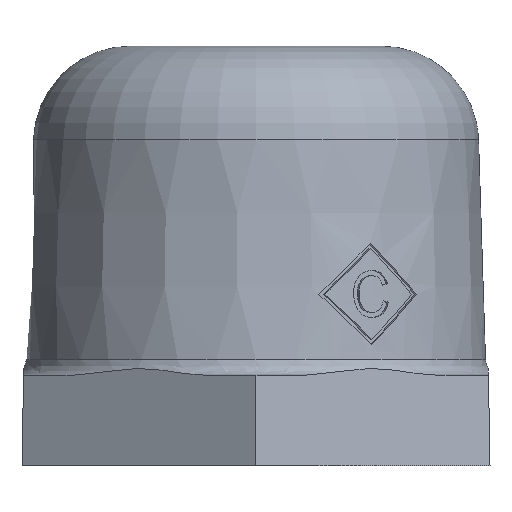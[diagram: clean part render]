
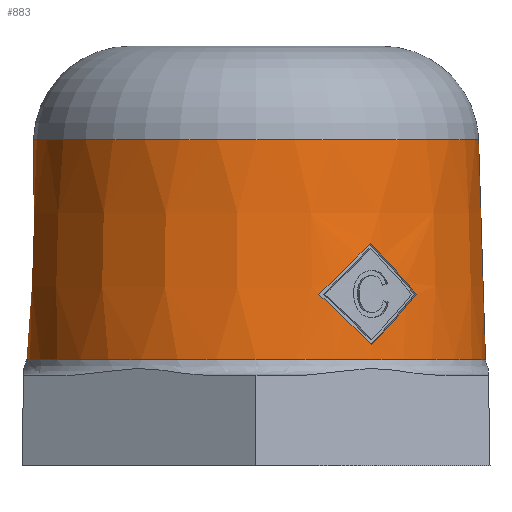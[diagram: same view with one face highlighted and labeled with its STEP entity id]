
A CAD part, front view. The second image highlights one B-rep face of the part: STEP entity #883.
In plain terms, the highlighted conical face has half-angle 1.8 degrees and reference radius 14.25 mm.
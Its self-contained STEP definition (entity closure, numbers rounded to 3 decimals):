
#212=CARTESIAN_POINT('',(7.176,-12.242,7.494));
#213=VERTEX_POINT('',#212);
#214=CARTESIAN_POINT('',(3.888,-13.545,10.634));
#215=VERTEX_POINT('',#214);
#216=CARTESIAN_POINT('',(0.344,0.208,6.968));
#217=DIRECTION('',(-0.573,-0.346,-0.743));
#218=DIRECTION('',(0.636,0.384,-0.669));
#219=AXIS2_PLACEMENT_3D('',#216,#217,#218);
#220=ELLIPSE('',#219,19.116,14.201);
#221=EDGE_CURVE('',#213,#215,#220,.T.);
#244=CARTESIAN_POINT('',(7.077,-12.071,13.789));
#245=VERTEX_POINT('',#244);
#246=CARTESIAN_POINT('',(-0.347,-0.192,13.103));
#247=DIRECTION('',(-0.586,-0.323,0.743));
#248=DIRECTION('',(0.651,0.359,0.669));
#249=AXIS2_PLACEMENT_3D('',#246,#247,#248);
#250=ELLIPSE('',#249,18.857,14.009);
#251=EDGE_CURVE('',#215,#245,#250,.T.);
#269=CARTESIAN_POINT('',(9.924,-10.004,10.633));
#270=VERTEX_POINT('',#269);
#271=CARTESIAN_POINT('',(-0.352,-0.194,6.8));
#272=DIRECTION('',(0.586,0.323,-0.743));
#273=DIRECTION('',(0.651,0.359,0.669));
#274=AXIS2_PLACEMENT_3D('',#271,#272,#273);
#275=ELLIPSE('',#274,19.124,14.207);
#276=EDGE_CURVE('',#270,#213,#275,.T.);
#294=CARTESIAN_POINT('',(0.339,0.205,13.272));
#295=DIRECTION('',(0.573,0.346,0.743));
#296=DIRECTION('',(0.636,0.384,-0.669));
#297=AXIS2_PLACEMENT_3D('',#294,#295,#296);
#298=ELLIPSE('',#297,18.85,14.003);
#299=EDGE_CURVE('',#245,#270,#298,.T.);
#850=CARTESIAN_POINT('',(0.,0.0,5.6));
#851=DIRECTION('',(0.0,0.0,-1.0));
#852=DIRECTION('',(-1.0,0.0,0.0));
#853=AXIS2_PLACEMENT_3D('',#850,#851,#852);
#854=CONICAL_SURFACE('',#853,14.25,1.8);
#855=CARTESIAN_POINT('',(14.22,0.,6.569));
#856=VERTEX_POINT('',#855);
#857=CARTESIAN_POINT('',(0.,0.,6.569));
#858=DIRECTION('',(0.0,0.0,-1.0));
#859=DIRECTION('',(-1.0,0.0,0.0));
#860=AXIS2_PLACEMENT_3D('',#857,#858,#859);
#861=CIRCLE('',#860,14.22);
#862=EDGE_CURVE('',#856,#856,#861,.T.);
#863=ORIENTED_EDGE('',*,*,#862,.F.);
#864=EDGE_LOOP('',(#863));
#865=FACE_OUTER_BOUND('',#864,.T.);
#866=CARTESIAN_POINT('',(13.792,0.,20.188));
#867=VERTEX_POINT('',#866);
#868=CARTESIAN_POINT('',(0.,0.,20.188));
#869=DIRECTION('',(0.0,0.0,1.0));
#870=DIRECTION('',(-1.0,0.0,0.0));
#871=AXIS2_PLACEMENT_3D('',#868,#869,#870);
#872=CIRCLE('',#871,13.792);
#873=EDGE_CURVE('',#867,#867,#872,.T.);
#874=ORIENTED_EDGE('',*,*,#873,.F.);
#875=EDGE_LOOP('',(#874));
#876=FACE_BOUND('',#875,.T.);
#877=ORIENTED_EDGE('',*,*,#221,.T.);
#878=ORIENTED_EDGE('',*,*,#251,.T.);
#879=ORIENTED_EDGE('',*,*,#299,.T.);
#880=ORIENTED_EDGE('',*,*,#276,.T.);
#881=EDGE_LOOP('',(#877,#878,#879,#880));
#882=FACE_BOUND('',#881,.T.);
#883=ADVANCED_FACE('',(#865,#876,#882),#854,.T.);
